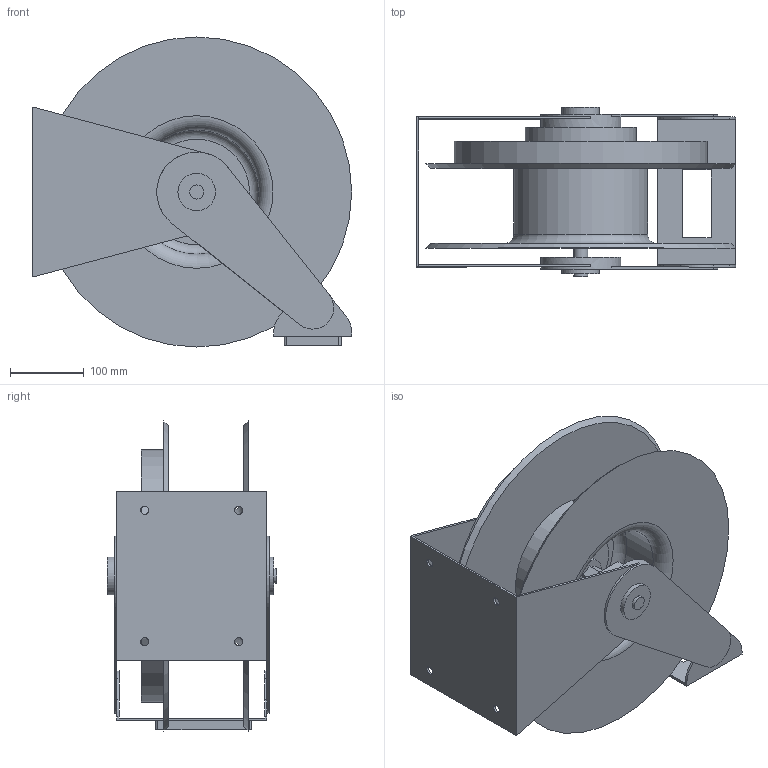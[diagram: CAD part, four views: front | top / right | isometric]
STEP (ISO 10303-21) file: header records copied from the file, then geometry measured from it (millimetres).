
FILE_DESCRIPTION( ( 'Unknown' ), '1' );
FILE_NAME( 'J:/NPD/RE 12893 3D WEB MODELS/DP7000 SERIES/DP7000 OXP WIDE.stp', 'Unknown', ( 'Unknown' ), ( 'Unknown' ), 'PSStep 10.1', 'Unknown', ' ' );
FILE_SCHEMA( ( 'AUTOMOTIVE_DESIGN { 1 0 10303 214 1 1 1 1 }' ) );
Length unit declared in the file: millimetre
Products named in the file (1): 1
Bounding box: 431.8 x 228.6 x 419.1 mm (x, y, z)
Volume: 6678832.6 mm3; surface area: 1036772.4 mm2
Topology: 1 solids, 1 shells, 119 faces, 285 edges, 183 vertices
Faces by surface type: plane 81, cylinder 30, cone 4, torus 4
Full cylindrical faces by diameter (mm): 11.113 x4, 18.923 x2, 19.05 x2, 44.45 x1, 50.8 x2, 107.95 x3, 149.809 x1, 168.148 x1, 180.848 x1, 342.163 x1
Entity records: 4236 total; most frequent: DIRECTION 574, CARTESIAN_POINT 548, ORIENTED_EDGE 504, EDGE_CURVE 252, AXIS2_PLACEMENT_3D 202, VERTEX_POINT 176, EDGE_LOOP 174, LINE 170
